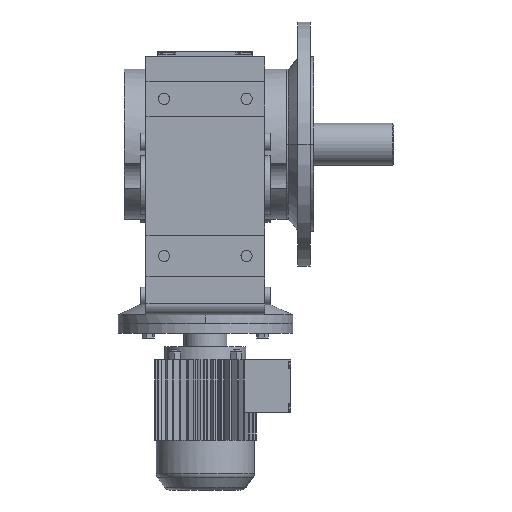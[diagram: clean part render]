
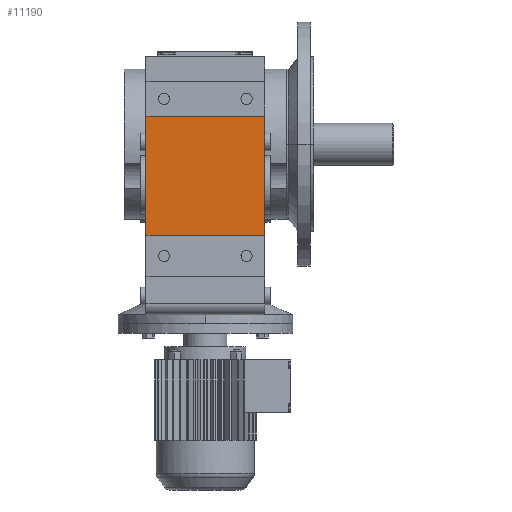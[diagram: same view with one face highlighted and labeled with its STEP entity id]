
A CAD part, front view. The second image highlights one B-rep face of the part: STEP entity #11190.
In plain terms, the highlighted planar face has unit normal (0, -1, 0).
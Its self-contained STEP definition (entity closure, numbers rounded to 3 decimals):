
#830 = PLANE('',#831);
#831 = AXIS2_PLACEMENT_3D('',#832,#833,#834);
#832 = CARTESIAN_POINT('',(85.,-188.58,-228.15));
#833 = DIRECTION('',(-1.,0.,0.));
#834 = DIRECTION('',(0.,0.,1.));
#4920 = VERTEX_POINT('',#4921);
#4921 = CARTESIAN_POINT('',(85.,-204.58,40.));
#4935 = PLANE('',#4936);
#4936 = AXIS2_PLACEMENT_3D('',#4937,#4938,#4939);
#4937 = CARTESIAN_POINT('',(-85.,-204.58,40.));
#4938 = DIRECTION('',(0.,0.,-1.));
#4939 = DIRECTION('',(-1.,0.,0.));
#4947 = EDGE_CURVE('',#4920,#4948,#4950,.T.);
#4948 = VERTEX_POINT('',#4949);
#4949 = CARTESIAN_POINT('',(85.,-204.58,-130.));
#4950 = SURFACE_CURVE('',#4951,(#4955,#4962),.PCURVE_S1.);
#4951 = LINE('',#4952,#4953);
#4952 = CARTESIAN_POINT('',(85.,-204.58,40.));
#4953 = VECTOR('',#4954,1.);
#4954 = DIRECTION('',(0.,0.,-1.));
#4955 = PCURVE('',#830,#4956);
#4956 = DEFINITIONAL_REPRESENTATION('',(#4957),#4961);
#4957 = LINE('',#4958,#4959);
#4958 = CARTESIAN_POINT('',(268.15,-16.));
#4959 = VECTOR('',#4960,1.);
#4960 = DIRECTION('',(-1.,0.));
#4961 = ( GEOMETRIC_REPRESENTATION_CONTEXT(2) 
PARAMETRIC_REPRESENTATION_CONTEXT() REPRESENTATION_CONTEXT('2D SPACE',''
  ) );
#4962 = PCURVE('',#4963,#4968);
#4963 = PLANE('',#4964);
#4964 = AXIS2_PLACEMENT_3D('',#4965,#4966,#4967);
#4965 = CARTESIAN_POINT('',(-85.,-204.58,40.));
#4966 = DIRECTION('',(0.,-1.,0.));
#4967 = DIRECTION('',(0.,0.,-1.));
#4968 = DEFINITIONAL_REPRESENTATION('',(#4969),#4973);
#4969 = LINE('',#4970,#4971);
#4970 = CARTESIAN_POINT('',(0.,170.));
#4971 = VECTOR('',#4972,1.);
#4972 = DIRECTION('',(1.,0.));
#4973 = ( GEOMETRIC_REPRESENTATION_CONTEXT(2) 
PARAMETRIC_REPRESENTATION_CONTEXT() REPRESENTATION_CONTEXT('2D SPACE',''
  ) );
#4991 = PLANE('',#4992);
#4992 = AXIS2_PLACEMENT_3D('',#4993,#4994,#4995);
#4993 = CARTESIAN_POINT('',(-85.,-204.58,-130.));
#4994 = DIRECTION('',(0.,0.,1.));
#4995 = DIRECTION('',(1.,0.,0.));
#9890 = PLANE('',#9891);
#9891 = AXIS2_PLACEMENT_3D('',#9892,#9893,#9894);
#9892 = CARTESIAN_POINT('',(-85.,-188.58,-228.15));
#9893 = DIRECTION('',(-1.,0.,0.));
#9894 = DIRECTION('',(0.,0.,1.));
#10472 = EDGE_CURVE('',#10473,#4920,#10475,.T.);
#10473 = VERTEX_POINT('',#10474);
#10474 = CARTESIAN_POINT('',(-85.,-204.58,40.));
#10475 = SURFACE_CURVE('',#10476,(#10480,#10487),.PCURVE_S1.);
#10476 = LINE('',#10477,#10478);
#10477 = CARTESIAN_POINT('',(-85.,-204.58,40.));
#10478 = VECTOR('',#10479,1.);
#10479 = DIRECTION('',(1.,0.,0.));
#10480 = PCURVE('',#4935,#10481);
#10481 = DEFINITIONAL_REPRESENTATION('',(#10482),#10486);
#10482 = LINE('',#10483,#10484);
#10483 = CARTESIAN_POINT('',(0.,0.));
#10484 = VECTOR('',#10485,1.);
#10485 = DIRECTION('',(-1.,0.));
#10486 = ( GEOMETRIC_REPRESENTATION_CONTEXT(2) 
PARAMETRIC_REPRESENTATION_CONTEXT() REPRESENTATION_CONTEXT('2D SPACE',''
  ) );
#10487 = PCURVE('',#4963,#10488);
#10488 = DEFINITIONAL_REPRESENTATION('',(#10489),#10493);
#10489 = LINE('',#10490,#10491);
#10490 = CARTESIAN_POINT('',(0.,0.));
#10491 = VECTOR('',#10492,1.);
#10492 = DIRECTION('',(0.,1.));
#10493 = ( GEOMETRIC_REPRESENTATION_CONTEXT(2) 
PARAMETRIC_REPRESENTATION_CONTEXT() REPRESENTATION_CONTEXT('2D SPACE',''
  ) );
#11028 = EDGE_CURVE('',#11029,#4948,#11031,.T.);
#11029 = VERTEX_POINT('',#11030);
#11030 = CARTESIAN_POINT('',(-85.,-204.58,-130.));
#11031 = SURFACE_CURVE('',#11032,(#11036,#11043),.PCURVE_S1.);
#11032 = LINE('',#11033,#11034);
#11033 = CARTESIAN_POINT('',(-85.,-204.58,-130.));
#11034 = VECTOR('',#11035,1.);
#11035 = DIRECTION('',(1.,0.,0.));
#11036 = PCURVE('',#4991,#11037);
#11037 = DEFINITIONAL_REPRESENTATION('',(#11038),#11042);
#11038 = LINE('',#11039,#11040);
#11039 = CARTESIAN_POINT('',(0.,0.));
#11040 = VECTOR('',#11041,1.);
#11041 = DIRECTION('',(1.,0.));
#11042 = ( GEOMETRIC_REPRESENTATION_CONTEXT(2) 
PARAMETRIC_REPRESENTATION_CONTEXT() REPRESENTATION_CONTEXT('2D SPACE',''
  ) );
#11043 = PCURVE('',#4963,#11044);
#11044 = DEFINITIONAL_REPRESENTATION('',(#11045),#11049);
#11045 = LINE('',#11046,#11047);
#11046 = CARTESIAN_POINT('',(170.,0.));
#11047 = VECTOR('',#11048,1.);
#11048 = DIRECTION('',(0.,1.));
#11049 = ( GEOMETRIC_REPRESENTATION_CONTEXT(2) 
PARAMETRIC_REPRESENTATION_CONTEXT() REPRESENTATION_CONTEXT('2D SPACE',''
  ) );
#11190 = ADVANCED_FACE('',(#11191),#4963,.T.);
#11191 = FACE_BOUND('',#11192,.T.);
#11192 = EDGE_LOOP('',(#11193,#11194,#11195,#11196));
#11193 = ORIENTED_EDGE('',*,*,#11028,.T.);
#11194 = ORIENTED_EDGE('',*,*,#4947,.F.);
#11195 = ORIENTED_EDGE('',*,*,#10472,.F.);
#11196 = ORIENTED_EDGE('',*,*,#11197,.T.);
#11197 = EDGE_CURVE('',#10473,#11029,#11198,.T.);
#11198 = SURFACE_CURVE('',#11199,(#11203,#11210),.PCURVE_S1.);
#11199 = LINE('',#11200,#11201);
#11200 = CARTESIAN_POINT('',(-85.,-204.58,40.));
#11201 = VECTOR('',#11202,1.);
#11202 = DIRECTION('',(0.,0.,-1.));
#11203 = PCURVE('',#4963,#11204);
#11204 = DEFINITIONAL_REPRESENTATION('',(#11205),#11209);
#11205 = LINE('',#11206,#11207);
#11206 = CARTESIAN_POINT('',(0.,0.));
#11207 = VECTOR('',#11208,1.);
#11208 = DIRECTION('',(1.,0.));
#11209 = ( GEOMETRIC_REPRESENTATION_CONTEXT(2) 
PARAMETRIC_REPRESENTATION_CONTEXT() REPRESENTATION_CONTEXT('2D SPACE',''
  ) );
#11210 = PCURVE('',#9890,#11211);
#11211 = DEFINITIONAL_REPRESENTATION('',(#11212),#11216);
#11212 = LINE('',#11213,#11214);
#11213 = CARTESIAN_POINT('',(268.15,-16.));
#11214 = VECTOR('',#11215,1.);
#11215 = DIRECTION('',(-1.,0.));
#11216 = ( GEOMETRIC_REPRESENTATION_CONTEXT(2) 
PARAMETRIC_REPRESENTATION_CONTEXT() REPRESENTATION_CONTEXT('2D SPACE',''
  ) );
